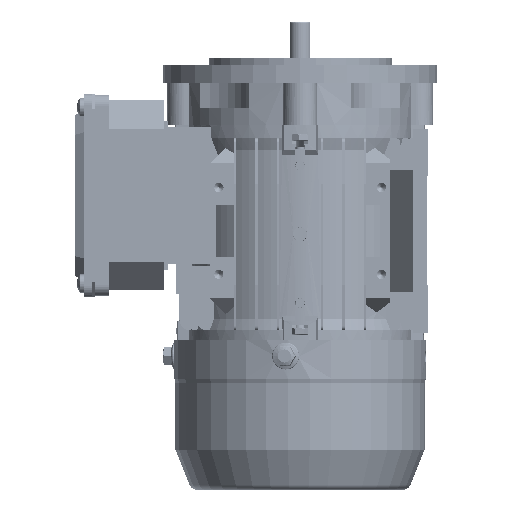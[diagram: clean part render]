
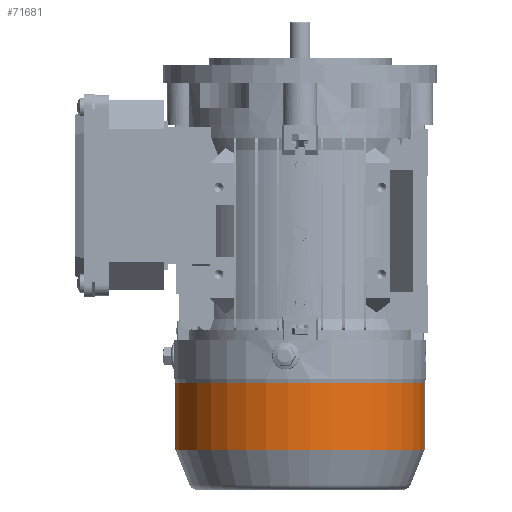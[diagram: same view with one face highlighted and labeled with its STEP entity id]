
A CAD part, left-side view. The second image highlights one B-rep face of the part: STEP entity #71681.
In plain terms, the highlighted cylindrical face has radius 54.6 mm (diameter 109.2 mm), a partial arc.
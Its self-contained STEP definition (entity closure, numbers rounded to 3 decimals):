
#8142 = ORIENTED_EDGE ( 'NONE', *, *, #17120, .T. ) ;
#8921 = DIRECTION ( 'NONE',  ( 1., 0., 0. ) ) ;
#12591 = CARTESIAN_POINT ( 'NONE',  ( 0., 0., 0. ) ) ;
#14158 = EDGE_CURVE ( 'NONE', #18524, #26140, #125740, .T. ) ;
#14394 = EDGE_CURVE ( 'NONE', #26140, #75309, #17547, .T. ) ;
#17120 = EDGE_CURVE ( 'NONE', #18524, #134654, #107350, .T. ) ;
#17547 = CIRCLE ( 'NONE', #119171, 54.6 ) ;
#18524 = VERTEX_POINT ( 'NONE', #125707 ) ;
#26140 = VERTEX_POINT ( 'NONE', #50740 ) ;
#28311 = LINE ( 'NONE', #94270, #134688 ) ;
#30684 = DIRECTION ( 'NONE',  ( 0., 0., 1. ) ) ;
#41318 = CARTESIAN_POINT ( 'NONE',  ( -54.6, 0., -29.504 ) ) ;
#50740 = CARTESIAN_POINT ( 'NONE',  ( 54.6, 0., -0.461 ) ) ;
#51594 = DIRECTION ( 'NONE',  ( 0., 0., 1. ) ) ;
#54916 = DIRECTION ( 'NONE',  ( 0., 0., 1. ) ) ;
#56165 = ORIENTED_EDGE ( 'NONE', *, *, #14394, .F. ) ;
#58582 = CARTESIAN_POINT ( 'NONE',  ( 54.6, 0., 0. ) ) ;
#59268 = FACE_OUTER_BOUND ( 'NONE', #101467, .T. ) ;
#59280 = ORIENTED_EDGE ( 'NONE', *, *, #91456, .T. ) ;
#65574 = DIRECTION ( 'NONE',  ( 1., 0., 0. ) ) ;
#69270 = DIRECTION ( 'NONE',  ( 0., 0., 1. ) ) ;
#71315 = AXIS2_PLACEMENT_3D ( 'NONE', #136259, #72578, #8921 ) ;
#71681 = ADVANCED_FACE ( 'NONE', ( #59268 ), #112461, .T. ) ;
#72578 = DIRECTION ( 'NONE',  ( 0., 0., 1. ) ) ;
#75309 = VERTEX_POINT ( 'NONE', #134809 ) ;
#81053 = ORIENTED_EDGE ( 'NONE', *, *, #14158, .F. ) ;
#91456 = EDGE_CURVE ( 'NONE', #134654, #75309, #28311, .T. ) ;
#94270 = CARTESIAN_POINT ( 'NONE',  ( -54.6, 0., 0. ) ) ;
#101467 = EDGE_LOOP ( 'NONE', ( #8142, #59280, #56165, #81053 ) ) ;
#107350 = CIRCLE ( 'NONE', #71315, 54.6 ) ;
#112461 = CYLINDRICAL_SURFACE ( 'NONE', #133084, 54.6 ) ;
#115246 = CARTESIAN_POINT ( 'NONE',  ( 0., 0., -0.461 ) ) ;
#119171 = AXIS2_PLACEMENT_3D ( 'NONE', #115246, #51594, #125929 ) ;
#122372 = VECTOR ( 'NONE', #69270, 1000. ) ;
#125707 = CARTESIAN_POINT ( 'NONE',  ( 54.6, 0., -29.504 ) ) ;
#125740 = LINE ( 'NONE', #58582, #122372 ) ;
#125929 = DIRECTION ( 'NONE',  ( 1., 0., 0. ) ) ;
#133084 = AXIS2_PLACEMENT_3D ( 'NONE', #12591, #54916, #65574 ) ;
#134654 = VERTEX_POINT ( 'NONE', #41318 ) ;
#134688 = VECTOR ( 'NONE', #30684, 1000. ) ;
#134809 = CARTESIAN_POINT ( 'NONE',  ( -54.6, 0., -0.461 ) ) ;
#136259 = CARTESIAN_POINT ( 'NONE',  ( 0., 0., -29.504 ) ) ;
